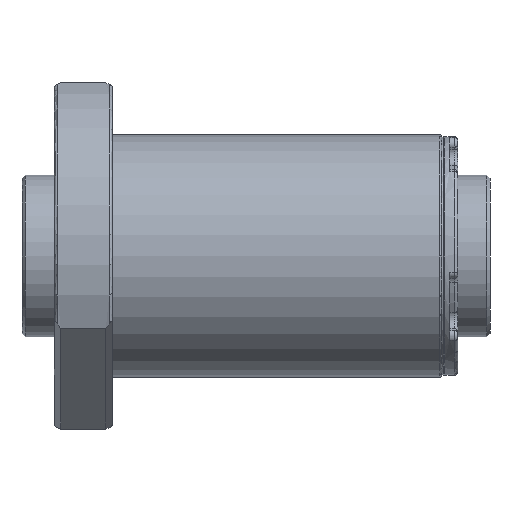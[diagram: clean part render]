
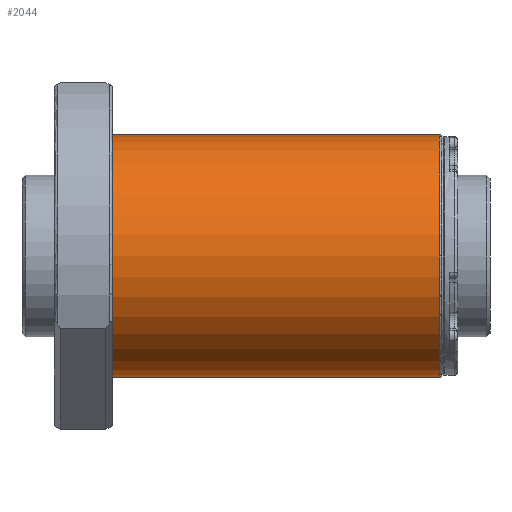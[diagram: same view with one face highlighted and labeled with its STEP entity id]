
A CAD part, front view. The second image highlights one B-rep face of the part: STEP entity #2044.
In plain terms, the highlighted cylindrical face has radius 37.5 mm (diameter 75 mm), a partial arc.
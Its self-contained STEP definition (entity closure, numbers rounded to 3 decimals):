
#234 = ORIENTED_EDGE ( 'NONE', *, *, #7406, .T. ) ;
#647 = ORIENTED_EDGE ( 'NONE', *, *, #1377, .F. ) ;
#726 = CIRCLE ( 'NONE', #12770, 37.5 ) ;
#1033 = ORIENTED_EDGE ( 'NONE', *, *, #8879, .T. ) ;
#1146 = DIRECTION ( 'NONE',  ( 1., 0., 0. ) ) ;
#1374 = CIRCLE ( 'NONE', #13361, 37.5 ) ;
#1377 = EDGE_CURVE ( 'NONE', #6258, #5323, #3652, .T. ) ;
#1908 = CARTESIAN_POINT ( 'NONE',  ( 18., 0., 0. ) ) ;
#2044 = ADVANCED_FACE ( 'NONE', ( #11951 ), #11755, .T. ) ;
#2194 = VECTOR ( 'NONE', #6852, 1000. ) ;
#2387 = VERTEX_POINT ( 'NONE', #2664 ) ;
#2616 = AXIS2_PLACEMENT_3D ( 'NONE', #14251, #13179, #3067 ) ;
#2664 = CARTESIAN_POINT ( 'NONE',  ( 119.5, -37.5, 0. ) ) ;
#2715 = LINE ( 'NONE', #12558, #2194 ) ;
#3067 = DIRECTION ( 'NONE',  ( 0., 0., -1. ) ) ;
#3338 = CARTESIAN_POINT ( 'NONE',  ( 119.5, 0., 37.5 ) ) ;
#3652 = LINE ( 'NONE', #6714, #3980 ) ;
#3784 = ORIENTED_EDGE ( 'NONE', *, *, #5846, .T. ) ;
#3930 = CARTESIAN_POINT ( 'NONE',  ( 119.5, 0., 0. ) ) ;
#3980 = VECTOR ( 'NONE', #7867, 1000. ) ;
#4343 = ORIENTED_EDGE ( 'NONE', *, *, #10194, .T. ) ;
#4463 = VERTEX_POINT ( 'NONE', #11470 ) ;
#5323 = VERTEX_POINT ( 'NONE', #3338 ) ;
#5605 = DIRECTION ( 'NONE',  ( 0., 0., -1. ) ) ;
#5846 = EDGE_CURVE ( 'NONE', #6258, #8049, #726, .T. ) ;
#6258 = VERTEX_POINT ( 'NONE', #8098 ) ;
#6714 = CARTESIAN_POINT ( 'NONE',  ( 18., 0., 37.5 ) ) ;
#6852 = DIRECTION ( 'NONE',  ( 1., 0., 0. ) ) ;
#7406 = EDGE_CURVE ( 'NONE', #4463, #2387, #1374, .T. ) ;
#7421 = DIRECTION ( 'NONE',  ( -1., 0., 0. ) ) ;
#7867 = DIRECTION ( 'NONE',  ( 1., 0., 0. ) ) ;
#8049 = VERTEX_POINT ( 'NONE', #8475 ) ;
#8098 = CARTESIAN_POINT ( 'NONE',  ( 18., 0., 37.5 ) ) ;
#8475 = CARTESIAN_POINT ( 'NONE',  ( 18., 0., -37.5 ) ) ;
#8879 = EDGE_CURVE ( 'NONE', #8049, #4463, #2715, .T. ) ;
#9267 = AXIS2_PLACEMENT_3D ( 'NONE', #12256, #1146, #5605 ) ;
#9793 = DIRECTION ( 'NONE',  ( 1., 0., 0. ) ) ;
#10105 = CIRCLE ( 'NONE', #2616, 37.5 ) ;
#10194 = EDGE_CURVE ( 'NONE', #2387, #5323, #10105, .T. ) ;
#10837 = DIRECTION ( 'NONE',  ( 0., 0., -1. ) ) ;
#11470 = CARTESIAN_POINT ( 'NONE',  ( 119.5, 0., -37.5 ) ) ;
#11755 = CYLINDRICAL_SURFACE ( 'NONE', #9267, 37.5 ) ;
#11951 = FACE_OUTER_BOUND ( 'NONE', #12994, .T. ) ;
#12256 = CARTESIAN_POINT ( 'NONE',  ( 18., 0., 0. ) ) ;
#12558 = CARTESIAN_POINT ( 'NONE',  ( 18., 0., -37.5 ) ) ;
#12770 = AXIS2_PLACEMENT_3D ( 'NONE', #1908, #9793, #10837 ) ;
#12943 = DIRECTION ( 'NONE',  ( 0., 0., -1. ) ) ;
#12994 = EDGE_LOOP ( 'NONE', ( #647, #3784, #1033, #234, #4343 ) ) ;
#13179 = DIRECTION ( 'NONE',  ( -1., 0., 0. ) ) ;
#13361 = AXIS2_PLACEMENT_3D ( 'NONE', #3930, #7421, #12943 ) ;
#14251 = CARTESIAN_POINT ( 'NONE',  ( 119.5, 0., 0. ) ) ;
